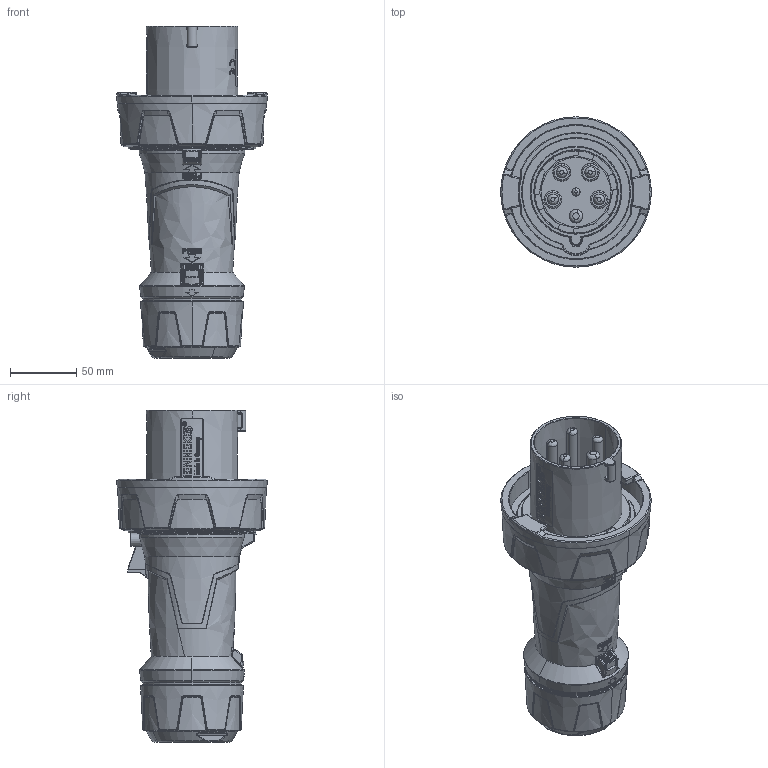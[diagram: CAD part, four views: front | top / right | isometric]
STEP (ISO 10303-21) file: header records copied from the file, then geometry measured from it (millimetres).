
FILE_DESCRIPTION((''),'2;1');
FILE_NAME('13260','2020-03-27T07:54:47',('Petermann'),('MENNEKES'),'CREO PARAMETRIC BY PTC INC, 2019080','CREO PARAMETRIC BY PTC INC, 2019080','');
FILE_SCHEMA(('AUTOMOTIVE_DESIGN { 1 0 10303 214 1 1 1 1 }'));
Products named in the file (1): 13260
Bounding box: 113.26 x 113.26 x 249.9 mm (x, y, z)
Volume: 945758.1 mm3; surface area: 115660.9 mm2
Topology: 1 solids, 1 shells, 1889 faces, 5078 edges, 3256 vertices
Faces by surface type: plane 520, extrusion 430, bspline 381, cylinder 268, cone 149, torus 121, sphere 18, revolution 2
Entity records: 106340 total; most frequent: CARTESIAN_POINT 34644, ORIENTED_EDGE 10122, PRESENTATION_STYLE_ASSIGNMENT 6951, DIRECTION 6496, STYLED_ITEM 5062, CURVE_STYLE 5061, EDGE_CURVE 5061, VERTEX_POINT 3256
